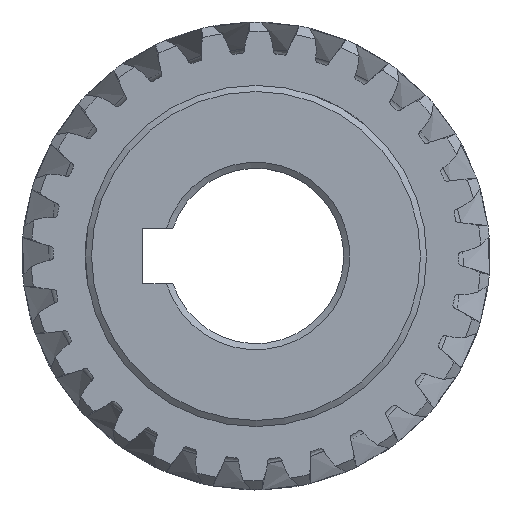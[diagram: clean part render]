
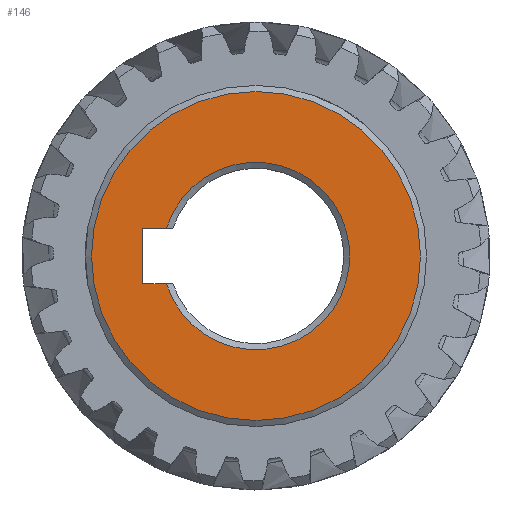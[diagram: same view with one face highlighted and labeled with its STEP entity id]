
A CAD part, left-side view. The second image highlights one B-rep face of the part: STEP entity #146.
In plain terms, the highlighted planar face has unit normal (-1, 0, 0).
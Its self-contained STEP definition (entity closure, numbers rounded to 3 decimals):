
#146=ADVANCED_FACE('',(#2965,#2967),#2969,.T.);
#2965=FACE_BOUND('',#2966,.T.);
#2966=EDGE_LOOP('',(#9994));
#2967=FACE_BOUND('',#2968,.T.);
#2968=EDGE_LOOP('',(#9995,#9996,#9997,#9998));
#2969=PLANE('',#2970);
#2970=AXIS2_PLACEMENT_3D('',#2971,#2972,#2973);
#2971=CARTESIAN_POINT('',(-15.,0.,0.));
#2972=DIRECTION('',(-1.,0.,-0.));
#2973=DIRECTION('',(0.,0.,-1.));
#9994=ORIENTED_EDGE('',*,*,#11637,.T.);
#9995=ORIENTED_EDGE('',*,*,#11820,.T.);
#9996=ORIENTED_EDGE('',*,*,#11830,.T.);
#9997=ORIENTED_EDGE('',*,*,#11828,.T.);
#9998=ORIENTED_EDGE('',*,*,#11831,.T.);
#11637=EDGE_CURVE('',#12571,#12571,#12572,.T.);
#11820=EDGE_CURVE('',#12937,#12935,#12938,.F.);
#11828=EDGE_CURVE('',#12951,#12949,#12952,.F.);
#11830=EDGE_CURVE('',#12935,#12951,#12954,.F.);
#11831=EDGE_CURVE('',#12949,#12937,#12955,.F.);
#12571=VERTEX_POINT('',#14318);
#12572=CIRCLE('',#14319,17.836);
#12935=VERTEX_POINT('',#15288);
#12937=VERTEX_POINT('',#15295);
#12938=LINE('',#15296,#15297);
#12949=VERTEX_POINT('',#15328);
#12951=VERTEX_POINT('',#15332);
#12952=LINE('',#15333,#15334);
#12954=CIRCLE('',#15342,10.164);
#12955=LINE('',#15346,#15347);
#14318=CARTESIAN_POINT('',(-15.,0.,-17.836));
#14319=AXIS2_PLACEMENT_3D('',#14320,#14321,#14322);
#14320=CARTESIAN_POINT('',(-15.,0.,0.));
#14321=DIRECTION('',(-1.,0.,-0.));
#14322=DIRECTION('',(0.,0.,-1.));
#15288=CARTESIAN_POINT('',(-15.,9.711,3.));
#15295=CARTESIAN_POINT('',(-15.,12.3,3.));
#15296=CARTESIAN_POINT('',(-15.,9.711,3.));
#15297=VECTOR('',#15298,1.);
#15298=DIRECTION('',(0.,1.,0.));
#15328=CARTESIAN_POINT('',(-15.,12.3,-3.));
#15332=CARTESIAN_POINT('',(-15.,9.711,-3.));
#15333=CARTESIAN_POINT('',(-15.,12.3,-3.));
#15334=VECTOR('',#15335,1.);
#15335=DIRECTION('',(0.,-1.,0.));
#15342=AXIS2_PLACEMENT_3D('',#15343,#15344,#15345);
#15343=CARTESIAN_POINT('',(-15.,0.,0.));
#15344=DIRECTION('',(-1.,0.,-0.));
#15345=DIRECTION('',(0.,0.955,-0.295));
#15346=CARTESIAN_POINT('',(-15.,12.3,3.));
#15347=VECTOR('',#15348,1.);
#15348=DIRECTION('',(0.,0.,-1.));
